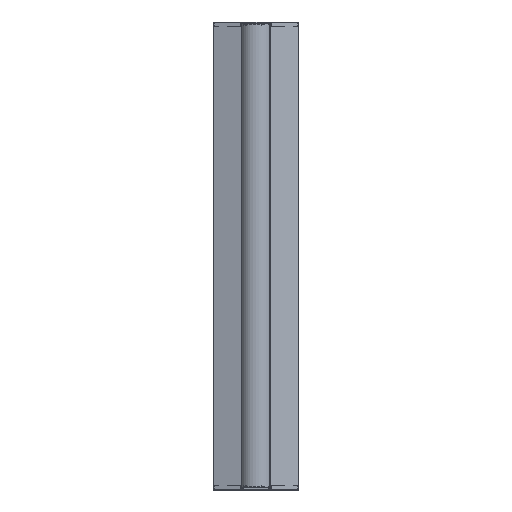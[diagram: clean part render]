
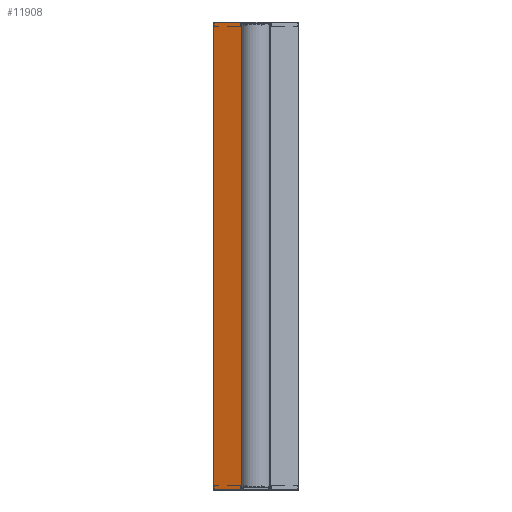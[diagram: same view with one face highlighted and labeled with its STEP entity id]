
A CAD part, front view. The second image highlights one B-rep face of the part: STEP entity #11908.
In plain terms, the highlighted planar face has unit normal (-0.258, -0.966, 0).
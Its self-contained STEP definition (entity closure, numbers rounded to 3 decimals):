
#280 = EDGE_LOOP ( 'NONE', ( #19017, #11535, #11770, #13070 ) ) ;
#629 = VERTEX_POINT ( 'NONE', #17018 ) ;
#2594 = CARTESIAN_POINT ( 'NONE',  ( -114.629, 20.017, 1260. ) ) ;
#2626 = VECTOR ( 'NONE', #4580, 1000. ) ;
#2632 = EDGE_CURVE ( 'NONE', #3387, #629, #25940, .T. ) ;
#3387 = VERTEX_POINT ( 'NONE', #18209 ) ;
#4580 = DIRECTION ( 'NONE',  ( 0., 0., -1. ) ) ;
#5339 = LINE ( 'NONE', #2594, #7788 ) ;
#7318 = CARTESIAN_POINT ( 'NONE',  ( -114.629, 20.017, 1260. ) ) ;
#7539 = DIRECTION ( 'NONE',  ( 0., 0., -1. ) ) ;
#7788 = VECTOR ( 'NONE', #26531, 1000. ) ;
#8203 = VECTOR ( 'NONE', #20483, 1000. ) ;
#10041 = LINE ( 'NONE', #7318, #2626 ) ;
#10255 = CARTESIAN_POINT ( 'NONE',  ( -39.75, 0., 1260. ) ) ;
#11535 = ORIENTED_EDGE ( 'NONE', *, *, #26574, .F. ) ;
#11770 = ORIENTED_EDGE ( 'NONE', *, *, #24330, .F. ) ;
#11778 = EDGE_CURVE ( 'NONE', #15676, #3387, #10041, .T. ) ;
#11908 = ADVANCED_FACE ( 'NONE', ( #22601 ), #21926, .F. ) ;
#12225 = VERTEX_POINT ( 'NONE', #17552 ) ;
#12991 = LINE ( 'NONE', #10255, #17222 ) ;
#13070 = ORIENTED_EDGE ( 'NONE', *, *, #11778, .T. ) ;
#13731 = DIRECTION ( 'NONE',  ( -0.966, 0.258, 0. ) ) ;
#15676 = VERTEX_POINT ( 'NONE', #24335 ) ;
#16443 = DIRECTION ( 'NONE',  ( 0.258, 0.966, 0. ) ) ;
#17018 = CARTESIAN_POINT ( 'NONE',  ( -39.75, 0., 0. ) ) ;
#17222 = VECTOR ( 'NONE', #7539, 1000. ) ;
#17552 = CARTESIAN_POINT ( 'NONE',  ( -39.75, 0., 1260. ) ) ;
#18209 = CARTESIAN_POINT ( 'NONE',  ( -114.629, 20.017, 0. ) ) ;
#19017 = ORIENTED_EDGE ( 'NONE', *, *, #2632, .T. ) ;
#19188 = CARTESIAN_POINT ( 'NONE',  ( -114.629, 20.017, 1260. ) ) ;
#20483 = DIRECTION ( 'NONE',  ( 0.966, -0.258, 0. ) ) ;
#21926 = PLANE ( 'NONE',  #25332 ) ;
#22601 = FACE_OUTER_BOUND ( 'NONE', #280, .T. ) ;
#23229 = CARTESIAN_POINT ( 'NONE',  ( -114.629, 20.017, 0. ) ) ;
#24330 = EDGE_CURVE ( 'NONE', #15676, #12225, #5339, .T. ) ;
#24335 = CARTESIAN_POINT ( 'NONE',  ( -114.629, 20.017, 1260. ) ) ;
#25332 = AXIS2_PLACEMENT_3D ( 'NONE', #19188, #16443, #13731 ) ;
#25940 = LINE ( 'NONE', #23229, #8203 ) ;
#26531 = DIRECTION ( 'NONE',  ( 0.966, -0.258, 0. ) ) ;
#26574 = EDGE_CURVE ( 'NONE', #12225, #629, #12991, .T. ) ;
